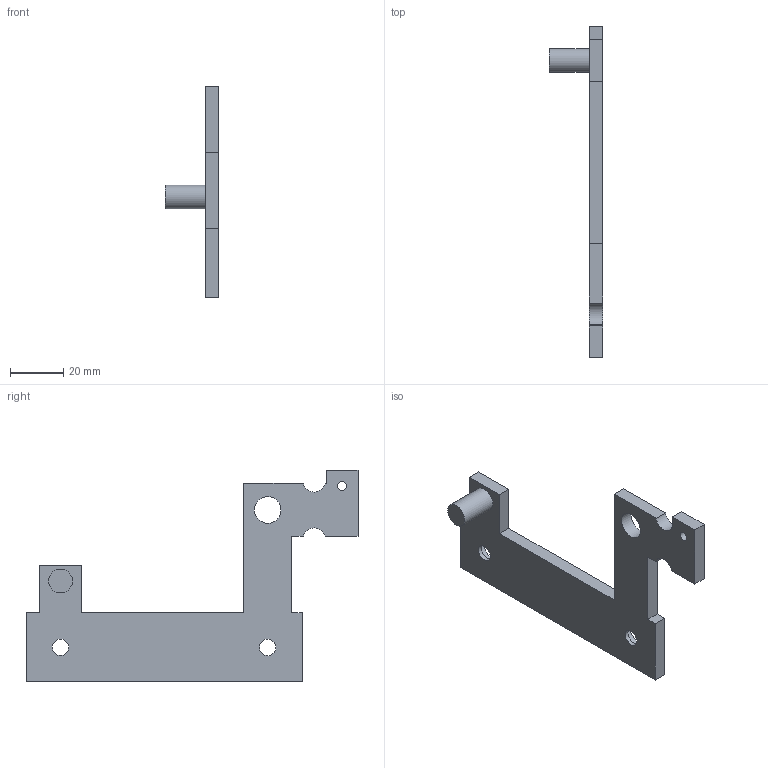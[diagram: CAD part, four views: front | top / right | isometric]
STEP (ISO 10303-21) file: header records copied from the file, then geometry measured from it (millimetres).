
FILE_DESCRIPTION(('Open CASCADE Model'),'2;1');
FILE_NAME('Open CASCADE Shape Model','2026-10-17T22:10:42',('Author'),( 'Open CASCADE'),'Open CASCADE STEP processor 7.9','Open CASCADE 7.9' ,'Unknown');
FILE_SCHEMA(('AUTOMOTIVE_DESIGN { 1 0 10303 214 1 1 1 1 }'));
Length unit declared in the file: millimetre
Products named in the file (1): Open CASCADE STEP translator 7.9 8
Bounding box: 20 x 125 x 79.75 mm (x, y, z)
Volume: 21635.7 mm3; surface area: 11801.8 mm2
Topology: 1 solids, 1 shells, 34 faces, 84 edges, 56 vertices
Faces by surface type: plane 24, cylinder 10
Full cylindrical faces by diameter (mm): 3.4 x2, 6.2 x2, 9 x1, 10 x1, 11 x2
Entity records: 2152 total; most frequent: CARTESIAN_POINT 452, DIRECTION 308, LINE 193, VECTOR 193, ORIENTED_EDGE 168, PCURVE 168, DEFINITIONAL_REPRESENTATION 168, EDGE_CURVE 84
